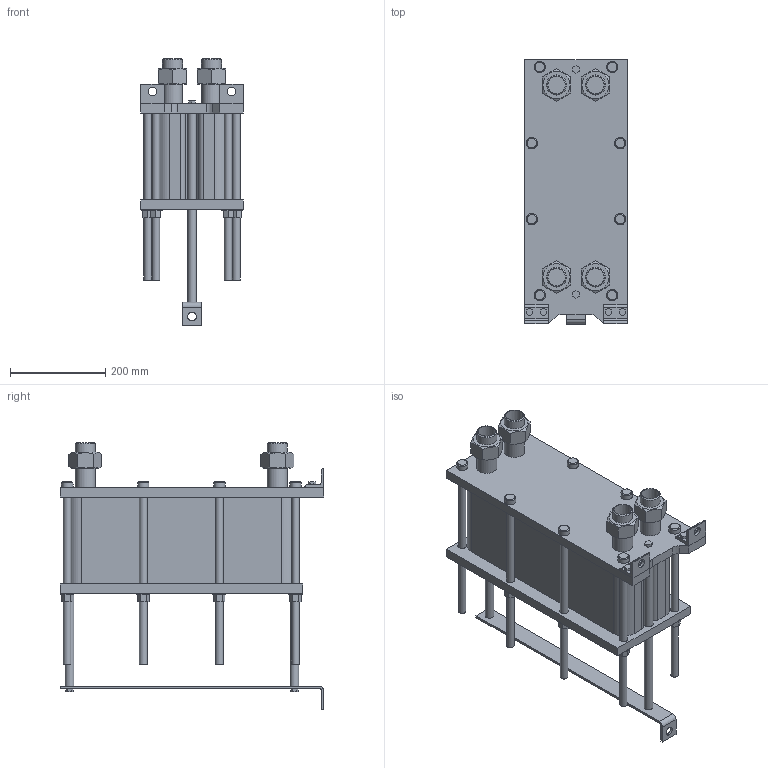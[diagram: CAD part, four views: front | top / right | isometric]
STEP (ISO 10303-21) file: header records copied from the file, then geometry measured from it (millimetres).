
FILE_DESCRIPTION(/* description */ (''),/* implementation_level */ '2;1');
FILE_NAME(/* name */ 'C:\Users\zhuro\Desktop\ENCO\TO\ЭН-004\ЭН-0,5-004-59-1.stp',/* time_stamp */ '2022-06-06T10:47:59+03:00',/* author */ ('zhuro'),/* organization */ (''),/* preprocessor_version */ 'ST-DEVELOPER v18.1',/* originating_system */ 'Autodesk Inventor 2022',/* authorisation */ '');
FILE_SCHEMA (('AUTOMOTIVE_DESIGN { 1 0 10303 214 3 1 1 }'));
Length unit declared in the file: millimetre
Products named in the file (1): ЭН-0,5-004-59-1
Bounding box: 216 x 555 x 560.2 mm (x, y, z)
Volume: 19327395.7 mm3; surface area: 1354934.3 mm2
Topology: 40 solids, 40 shells, 403 faces, 865 edges, 574 vertices
Faces by surface type: plane 272, cylinder 103, cone 28
Full cylindrical faces by diameter (mm): 10 x4, 16 x16, 18 x29, 20 x2, 24 x8, 28 x8, 36.3 x5, 42.3 x9
Entity records: 11137 total; most frequent: CARTESIAN_POINT 1939, DIRECTION 1879, ORIENTED_EDGE 1730, EDGE_CURVE 865, AXIS2_PLACEMENT_3D 658, VERTEX_POINT 574, LINE 563, VECTOR 563
